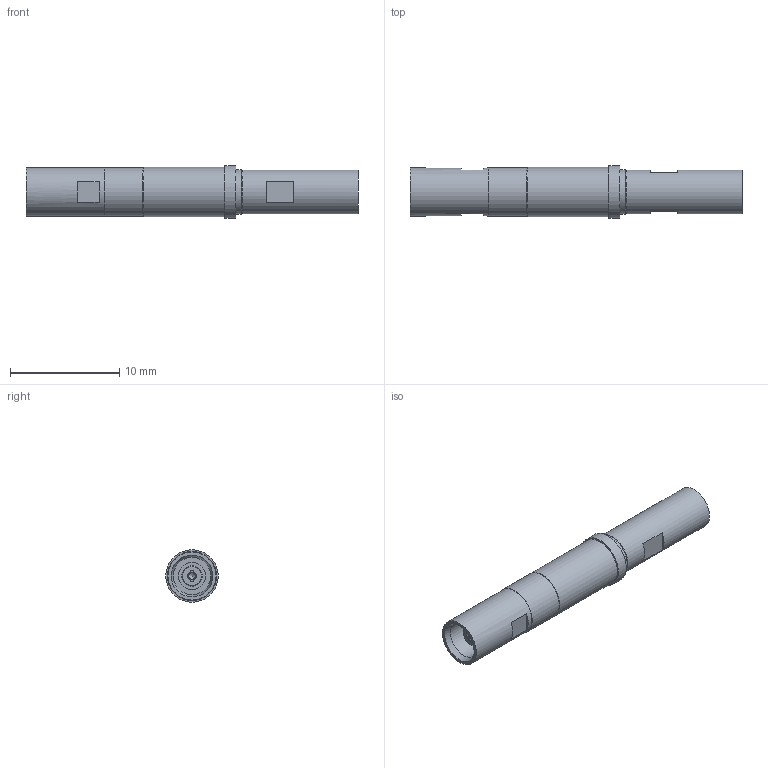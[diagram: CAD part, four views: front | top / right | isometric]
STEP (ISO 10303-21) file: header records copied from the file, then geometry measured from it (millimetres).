
FILE_DESCRIPTION(/* description */ (''),/* implementation_level */ '2;1');
FILE_NAME(/* name */ 'RCR-CXFSPF06-02_客户.stp',/* time_stamp */ '2025-12-19T12:58:23+08:00',/* author */ (''),/* organization */ (''),/* preprocessor_version */ 'ST-DEVELOPER v18.102',/* originating_system */ 'SIEMENS PLM Software NX2206.1700',/* authorisation */ '');
FILE_SCHEMA (('AP203_CONFIGURATION_CONTROLLED_3D_DESIGN_OF_MECHANICAL_PARTS_AND_ASSEMBLIES_MIM_LF { 1 0 10303 403 2 1 2}'));
Length unit declared in the file: millimetre
Products named in the file (1): RCR-CXFSPF06-02_A_20230921_stp_objects
Bounding box: 30.4 x 4.8 x 4.8 mm (x, y, z)
Volume: 375.3 mm3; surface area: 578.9 mm2
Topology: 1 solids, 3 shells, 72 faces, 146 edges, 94 vertices
Faces by surface type: plane 34, cylinder 24, cone 13, torus 1
Full cylindrical faces by diameter (mm): 0.52 x1, 0.6 x1, 0.75 x1, 0.8 x2, 0.85 x1, 0.95 x1, 1.2 x1, 1.9 x1, 2.45 x1, 2.5 x1, 3.4 x1, 3.42 x1, 3.7 x1, 4 x1, 4.05 x1, 4.4 x1, 4.46 x1, 4.5 x1, 4.8 x1
Entity records: 1807 total; most frequent: CARTESIAN_POINT 346, DIRECTION 308, ORIENTED_EDGE 210, AXIS2_PLACEMENT_3D 137, EDGE_LOOP 120, EDGE_CURVE 105, FACE_BOUND 98, VERTEX_POINT 88
